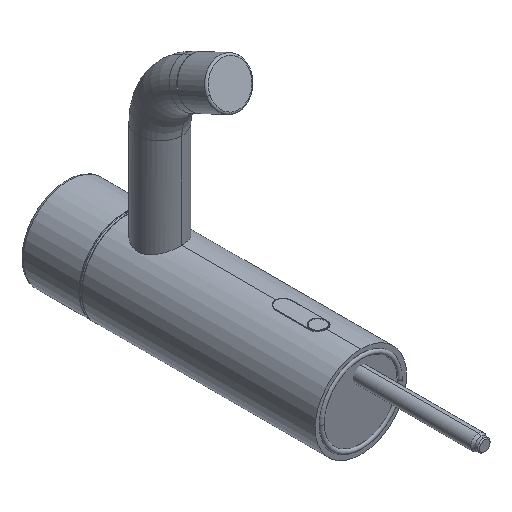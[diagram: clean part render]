
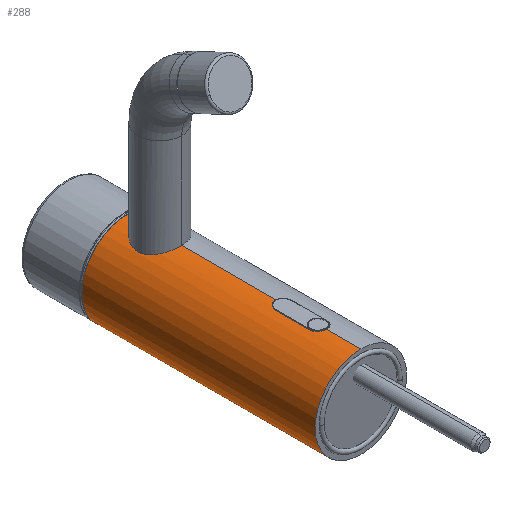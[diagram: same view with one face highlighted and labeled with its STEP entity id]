
A CAD part, isometric view. The second image highlights one B-rep face of the part: STEP entity #288.
In plain terms, the highlighted cylindrical face has radius 24 mm (diameter 48 mm), a partial arc.
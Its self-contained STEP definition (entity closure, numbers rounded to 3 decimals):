
#12=CARTESIAN_POINT('',(0.,18.,24.));
#28=CARTESIAN_POINT('',(0.,44.7,24.));
#30=CARTESIAN_POINT('',(0.,97.,24.));
#48=CARTESIAN_POINT('',(0.,109.,24.));
#88=DIRECTION('',(0.,-1.,0.));
#89=VECTOR('',#88,18.);
#90=CARTESIAN_POINT('',(-4.35,40.35,23.602));
#91=LINE('',#90,#89);
#92=CARTESIAN_POINT('',(0.,18.,24.));
#93=CARTESIAN_POINT('',(-0.271,18.,24.));
#94=CARTESIAN_POINT('',(-0.814,18.047,23.991));
#95=CARTESIAN_POINT('',(-1.682,18.306,23.946));
#96=CARTESIAN_POINT('',(-2.438,18.714,23.879));
#97=CARTESIAN_POINT('',(-3.095,19.254,23.802));
#98=CARTESIAN_POINT('',(-3.637,19.913,23.724));
#99=CARTESIAN_POINT('',(-4.044,20.672,23.658));
#100=CARTESIAN_POINT('',(-4.295,21.5,23.613));
#101=CARTESIAN_POINT('',(-4.35,22.063,23.602));
#102=CARTESIAN_POINT('',(-4.35,22.35,23.602));
#104=DIRECTION('',(0.,1.,0.));
#105=VECTOR('',#104,18.);
#106=CARTESIAN_POINT('',(0.,0.,24.));
#107=LINE('',#106,#105);
#108=CARTESIAN_POINT('',(0.,0.,0.));
#109=DIRECTION('',(0.,1.,0.));
#110=DIRECTION('',(0.,0.,-1.));
#111=AXIS2_PLACEMENT_3D('',#108,#109,#110);
#113=DIRECTION('',(0.,1.,0.));
#114=VECTOR('',#113,122.5);
#115=CARTESIAN_POINT('',(0.,0.,-24.));
#116=LINE('',#115,#114);
#117=CARTESIAN_POINT('',(0.,122.5,0.));
#118=DIRECTION('',(0.,1.,0.));
#119=DIRECTION('',(0.,0.,-1.));
#120=AXIS2_PLACEMENT_3D('',#117,#118,#119);
#122=DIRECTION('',(0.,1.,0.));
#123=VECTOR('',#122,13.5);
#124=CARTESIAN_POINT('',(0.,109.,24.));
#125=LINE('',#124,#123);
#126=CARTESIAN_POINT('',(0.,109.,24.));
#127=CARTESIAN_POINT('',(-0.395,109.,24.));
#128=CARTESIAN_POINT('',(-1.17,108.924,23.981));
#129=CARTESIAN_POINT('',(-2.302,108.583,23.898));
#130=CARTESIAN_POINT('',(-3.338,108.031,23.774));
#131=CARTESIAN_POINT('',(-4.246,107.292,23.626));
#132=CARTESIAN_POINT('',(-4.996,106.391,23.478));
#133=CARTESIAN_POINT('',(-5.559,105.358,23.349));
#134=CARTESIAN_POINT('',(-5.915,104.22,23.26));
#135=CARTESIAN_POINT('',(-6.039,103.03,23.228));
#136=CARTESIAN_POINT('',(-5.927,101.841,23.257));
#137=CARTESIAN_POINT('',(-5.584,100.701,23.343));
#138=CARTESIAN_POINT('',(-5.027,99.654,23.471));
#139=CARTESIAN_POINT('',(-4.278,98.738,23.621));
#140=CARTESIAN_POINT('',(-3.365,97.986,23.77));
#141=CARTESIAN_POINT('',(-2.322,97.425,23.896));
#142=CARTESIAN_POINT('',(-1.181,97.078,23.98));
#143=CARTESIAN_POINT('',(-0.399,97.,24.));
#144=CARTESIAN_POINT('',(0.,97.,24.));
#146=DIRECTION('',(0.,1.,0.));
#147=VECTOR('',#146,52.3);
#148=CARTESIAN_POINT('',(0.,44.7,24.));
#149=LINE('',#148,#147);
#150=CARTESIAN_POINT('',(0.,44.7,24.));
#151=CARTESIAN_POINT('',(-0.27,44.7,24.));
#152=CARTESIAN_POINT('',(-0.81,44.653,23.991));
#153=CARTESIAN_POINT('',(-1.675,44.397,23.946));
#154=CARTESIAN_POINT('',(-2.434,43.989,23.88));
#155=CARTESIAN_POINT('',(-3.094,43.447,23.802));
#156=CARTESIAN_POINT('',(-3.636,42.788,23.725));
#157=CARTESIAN_POINT('',(-4.044,42.029,23.658));
#158=CARTESIAN_POINT('',(-4.294,41.201,23.613));
#159=CARTESIAN_POINT('',(-4.35,40.637,23.602));
#160=CARTESIAN_POINT('',(-4.35,40.35,23.602));
#182=CARTESIAN_POINT('',(0.,0.,-24.));
#183=CARTESIAN_POINT('',(0.,122.5,-24.));
#184=VERTEX_POINT('',#182);
#185=VERTEX_POINT('',#183);
#186=CARTESIAN_POINT('',(0.,0.,24.));
#187=VERTEX_POINT('',#186);
#188=CARTESIAN_POINT('',(0.,122.5,24.));
#189=VERTEX_POINT('',#188);
#190=VERTEX_POINT('',#30);
#191=VERTEX_POINT('',#48);
#193=VERTEX_POINT('',#12);
#196=VERTEX_POINT('',#28);
#197=CARTESIAN_POINT('',(-4.35,40.35,23.602));
#198=CARTESIAN_POINT('',(-4.35,22.35,23.602));
#199=VERTEX_POINT('',#197);
#200=VERTEX_POINT('',#198);
#267=CARTESIAN_POINT('',(0.,128.625,0.));
#268=DIRECTION('',(0.,-1.,0.));
#269=DIRECTION('',(0.,0.,1.));
#270=AXIS2_PLACEMENT_3D('',#267,#268,#269);
#271=CYLINDRICAL_SURFACE('',#270,24.);
#273=ORIENTED_EDGE('',*,*,#272,.T.);
#274=ORIENTED_EDGE('',*,*,#254,.F.);
#275=ORIENTED_EDGE('',*,*,#243,.F.);
#276=ORIENTED_EDGE('',*,*,#216,.F.);
#277=ORIENTED_EDGE('',*,*,#240,.T.);
#279=ORIENTED_EDGE('',*,*,#278,.T.);
#280=ORIENTED_EDGE('',*,*,#236,.F.);
#282=ORIENTED_EDGE('',*,*,#281,.T.);
#283=ORIENTED_EDGE('',*,*,#232,.F.);
#285=ORIENTED_EDGE('',*,*,#284,.T.);
#286=EDGE_LOOP('',(#273,#274,#275,#276,#277,#279,#280,#282,#283,#285));
#287=FACE_OUTER_BOUND('',#286,.F.);
#288=ADVANCED_FACE('',(#287),#271,.T.);
#103=B_SPLINE_CURVE_WITH_KNOTS('',3,(#92,#93,#94,#95,#96,#97,#98,#99,#100,#101,
#102),.UNSPECIFIED.,.F.,.F.,(4,1,1,1,1,1,1,1,4),(0.,0.125,0.25,0.375,
0.5,0.625,0.75,0.875,1.),.UNSPECIFIED.);
#112=CIRCLE('',#111,24.);
#121=CIRCLE('',#120,24.);
#145=B_SPLINE_CURVE_WITH_KNOTS('',3,(#126,#127,#128,#129,#130,#131,#132,#133,
#134,#135,#136,#137,#138,#139,#140,#141,#142,#143,#144),.UNSPECIFIED.,.F.,.F.,
(4,1,1,1,1,1,1,1,1,1,1,1,1,1,1,1,4),(0.,0.063,0.125,0.188,0.25,
0.313,0.375,0.438,0.5,0.563,0.625,0.688,0.75,0.813,
0.875,0.938,1.),.UNSPECIFIED.);
#161=B_SPLINE_CURVE_WITH_KNOTS('',3,(#150,#151,#152,#153,#154,#155,#156,#157,
#158,#159,#160),.UNSPECIFIED.,.F.,.F.,(4,1,1,1,1,1,1,1,4),(0.,0.125,0.25,
0.375,0.5,0.625,0.75,0.875,1.),.UNSPECIFIED.);
#216=EDGE_CURVE('',#184,#187,#112,.T.);
#232=EDGE_CURVE('',#196,#190,#149,.T.);
#236=EDGE_CURVE('',#191,#189,#125,.T.);
#240=EDGE_CURVE('',#184,#185,#116,.T.);
#243=EDGE_CURVE('',#187,#193,#107,.T.);
#254=EDGE_CURVE('',#193,#200,#103,.T.);
#272=EDGE_CURVE('',#199,#200,#91,.T.);
#278=EDGE_CURVE('',#185,#189,#121,.T.);
#281=EDGE_CURVE('',#191,#190,#145,.T.);
#284=EDGE_CURVE('',#196,#199,#161,.T.);
